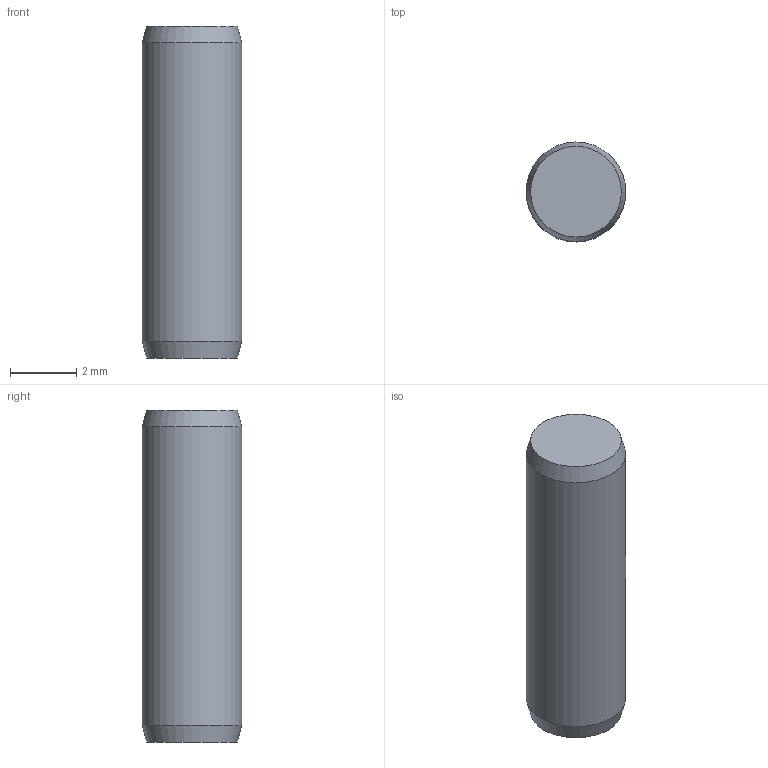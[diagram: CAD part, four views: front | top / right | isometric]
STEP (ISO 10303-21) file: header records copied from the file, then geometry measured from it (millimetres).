
FILE_DESCRIPTION(/* description */ ('STEP AP242 Edition 2','CAx-IF Rec.Pracs.---Representation and Presentation of Product Manufacturing Information (PMI)---4.0---2014-10-13','CAx-IF Rec.Pracs.---3D Tessellated Geometry---0.4---2014-09-14','2;1','CAx-IF Rec.Pracs.---User Defined Attributes---1.5---2016-08-15'),/* implementation_level */ '2;1');
FILE_NAME(/* name */ 'Assy_ForMFG - Parallel pin 3 x 10 (4)',/* time_stamp */ '2026-05-15T19:56:55Z',/* author */ (''),/* organization */ (''),/* preprocessor_version */ 'ST-DEVELOPER v20',/* originating_system */ 'ONSHAPE BY PTC INC, 1.215',/* authorisation */ ' ');
FILE_SCHEMA (('AP242_MANAGED_MODEL_BASED_3D_ENGINEERING_MIM_LF { 1 0 10303 442 3 1 4 }'));
Length unit declared in the file: metre
Products named in the file (1): Parallel pin 3 x 10
Bounding box: 3 x 3 x 10 mm (x, y, z)
Volume: 70.1 mm3; surface area: 105.9 mm2
Topology: 1 solids, 1 shells, 5 faces, 7 edges, 4 vertices
Faces by surface type: plane 2, cone 2, cylinder 1
Full cylindrical faces by diameter (mm): 3 x1
Entity records: 116 total; most frequent: DIRECTION 20, CARTESIAN_POINT 14, AXIS2_PLACEMENT_3D 10, ORIENTED_EDGE 8, EDGE_LOOP 8, FACE_BOUND 8, ADVANCED_FACE 5, EDGE_CURVE 4
